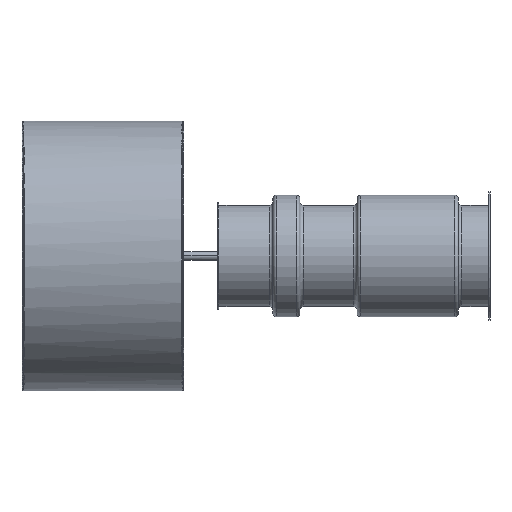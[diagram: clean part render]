
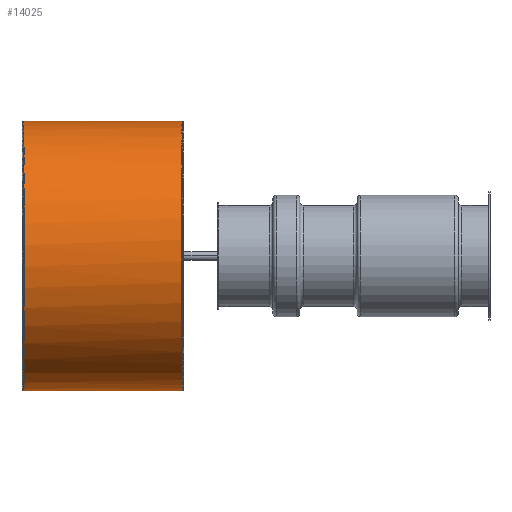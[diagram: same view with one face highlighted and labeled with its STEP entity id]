
A CAD part, left-side view. The second image highlights one B-rep face of the part: STEP entity #14025.
In plain terms, the highlighted free-form (B-spline) face has degree [1, 3] with [2, 4] control points.
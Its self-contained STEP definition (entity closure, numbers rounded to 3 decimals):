
#418 = CARTESIAN_POINT ( 'NONE',  ( 0., 565.314, 200. ) ) ;
#1587 = B_SPLINE_CURVE_WITH_KNOTS ( 'NONE', 1,
 ( #8495, #11966 ),
 .UNSPECIFIED., .F., .F.,
 ( 2, 2 ),
 ( 0., 1. ),
 .UNSPECIFIED. ) ;
#1697 = CARTESIAN_POINT ( 'NONE',  ( 0., 801.314, 200. ) ) ;
#1992 =( BOUNDED_CURVE ( )  B_SPLINE_CURVE ( 3, ( #7863, #13472, #4316, #14770 ),
 .UNSPECIFIED., .F., .F. ) 
 B_SPLINE_CURVE_WITH_KNOTS ( ( 4, 4 ),
 ( 0., 3.142 ),
 .UNSPECIFIED. ) 
 CURVE ( )  GEOMETRIC_REPRESENTATION_ITEM ( )  RATIONAL_B_SPLINE_CURVE ( ( 0.959, 0.32, 0.32, 0.959 ) ) 
 REPRESENTATION_ITEM ( '' )  );
#2038 = CARTESIAN_POINT ( 'NONE',  ( 0., 565.314, -200. ) ) ;
#2340 = CARTESIAN_POINT ( 'NONE',  ( 0., 565.314, -200. ) ) ;
#2533 = CARTESIAN_POINT ( 'NONE',  ( -400., 801.314, -200. ) ) ;
#3176 = CARTESIAN_POINT ( 'NONE',  ( -400., 565.314, 200. ) ) ;
#3674 = FACE_OUTER_BOUND ( 'NONE', #4913, .T. ) ;
#4316 = CARTESIAN_POINT ( 'NONE',  ( -400., 801.314, 200. ) ) ;
#4913 = EDGE_LOOP ( 'NONE', ( #13174, #12473, #14502, #10996 ) ) ;
#5185 = VERTEX_POINT ( 'NONE', #418 ) ;
#5259 = CARTESIAN_POINT ( 'NONE',  ( 0., 565.314, -200. ) ) ;
#5655 = CARTESIAN_POINT ( 'NONE',  ( 0., 801.314, -200. ) ) ;
#6014 = CARTESIAN_POINT ( 'NONE',  ( 0., 565.314, 200. ) ) ;
#6224 = B_SPLINE_CURVE_WITH_KNOTS ( 'NONE', 1,
 ( #11940, #6264 ),
 .UNSPECIFIED., .F., .F.,
 ( 2, 2 ),
 ( 0., 1. ),
 .UNSPECIFIED. ) ;
#6259 = EDGE_CURVE ( 'NONE', #10448, #7700, #1587, .T. ) ;
#6264 = CARTESIAN_POINT ( 'NONE',  ( 0., 565.314, 200. ) ) ;
#6317 = CARTESIAN_POINT ( 'NONE',  ( -400., 565.314, 200. ) ) ;
#7017 = VERTEX_POINT ( 'NONE', #1697 ) ;
#7160 = CARTESIAN_POINT ( 'NONE',  ( 0., 801.314, -200. ) ) ;
#7700 = VERTEX_POINT ( 'NONE', #2340 ) ;
#7863 = CARTESIAN_POINT ( 'NONE',  ( 0., 801.314, -200. ) ) ;
#8146 = CARTESIAN_POINT ( 'NONE',  ( 0., 801.314, 200. ) ) ;
#8295 = CARTESIAN_POINT ( 'NONE',  ( -400., 801.314, 200. ) ) ;
#8495 = CARTESIAN_POINT ( 'NONE',  ( 0., 801.314, -200. ) ) ;
#8736 = CARTESIAN_POINT ( 'NONE',  ( -400., 565.314, -200. ) ) ;
#10140 = CARTESIAN_POINT ( 'NONE',  ( 0., 565.314, 200. ) ) ;
#10245 = EDGE_CURVE ( 'NONE', #7017, #5185, #6224, .T. ) ;
#10448 = VERTEX_POINT ( 'NONE', #5655 ) ;
#10884 =( BOUNDED_CURVE ( )  B_SPLINE_CURVE ( 3, ( #10140, #3176, #11784, #2038 ),
 .UNSPECIFIED., .F., .F. ) 
 B_SPLINE_CURVE_WITH_KNOTS ( ( 4, 4 ),
 ( 0., 3.142 ),
 .UNSPECIFIED. ) 
 CURVE ( )  GEOMETRIC_REPRESENTATION_ITEM ( )  RATIONAL_B_SPLINE_CURVE ( ( 0.959, 0.32, 0.32, 0.959 ) ) 
 REPRESENTATION_ITEM ( '' )  );
#10996 = ORIENTED_EDGE ( 'NONE', *, *, #12682, .F. ) ;
#11232 = EDGE_CURVE ( 'NONE', #10448, #7017, #1992, .T. ) ;
#11784 = CARTESIAN_POINT ( 'NONE',  ( -400., 565.314, -200. ) ) ;
#11940 = CARTESIAN_POINT ( 'NONE',  ( 0., 801.314, 200. ) ) ;
#11966 = CARTESIAN_POINT ( 'NONE',  ( 0., 565.314, -200. ) ) ;
#12473 = ORIENTED_EDGE ( 'NONE', *, *, #11232, .F. ) ;
#12682 = EDGE_CURVE ( 'NONE', #5185, #7700, #10884, .T. ) ;
#13174 = ORIENTED_EDGE ( 'NONE', *, *, #10245, .F. ) ;
#13472 = CARTESIAN_POINT ( 'NONE',  ( -400., 801.314, -200. ) ) ;
#13594 =( BOUNDED_SURFACE ( )  B_SPLINE_SURFACE ( 1, 3, ( 
 ( #8146, #8295, #2533, #7160 ),
 ( #6014, #6317, #8736, #5259 ) ),
 .UNSPECIFIED., .F., .F., .T. ) 
 B_SPLINE_SURFACE_WITH_KNOTS ( ( 2, 2 ),
 ( 4, 4 ),
 ( 0., 1. ),
 ( 0., 1. ),
 .UNSPECIFIED. ) 
 GEOMETRIC_REPRESENTATION_ITEM ( )  RATIONAL_B_SPLINE_SURFACE ( (
 ( 1., 0.333, 0.333, 1.),
 ( 1., 0.333, 0.333, 1.) ) ) 
 REPRESENTATION_ITEM ( '' )  SURFACE ( )  );
#14025 = ADVANCED_FACE ( 'NONE', ( #3674 ), #13594, .F. ) ;
#14502 = ORIENTED_EDGE ( 'NONE', *, *, #6259, .T. ) ;
#14770 = CARTESIAN_POINT ( 'NONE',  ( 0., 801.314, 200. ) ) ;
